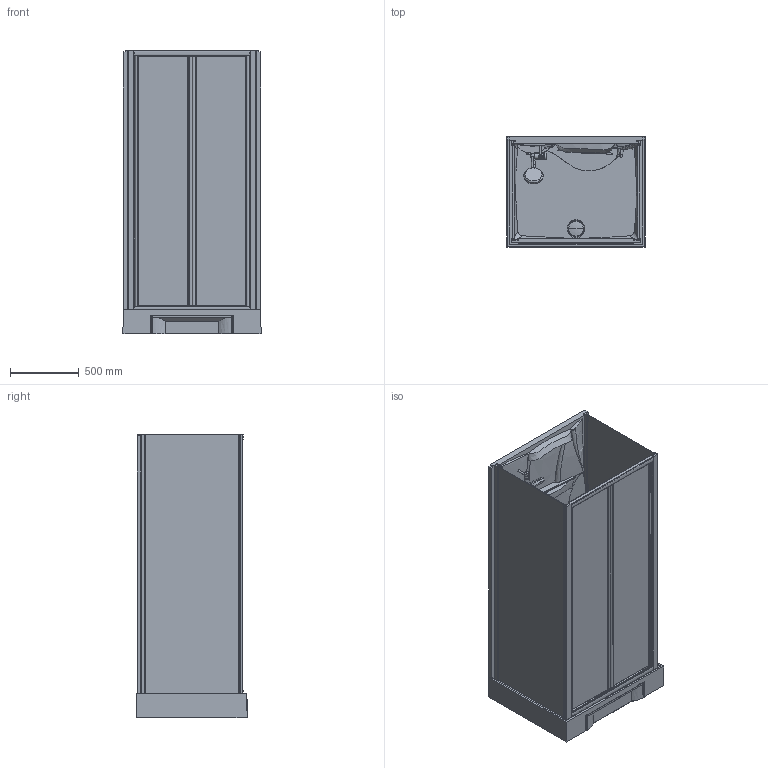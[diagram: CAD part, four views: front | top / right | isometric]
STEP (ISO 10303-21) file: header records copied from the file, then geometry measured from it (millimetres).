
FILE_DESCRIPTION(('STEP AP203'),'2;1');
FILE_NAME('NNH 2F 100 M.stp','2015-09-04T14:51:19',(''),(''),'2014.1.117','THINKDESIGN','');
FILE_SCHEMA(('CONFIG_CONTROL_DESIGN'));
Length unit declared in the file: millimetre
Products named in the file (1): top
Bounding box: 1004.04 x 807.53 x 2063.06 mm (x, y, z)
Volume: 176521013.7 mm3; surface area: 18092890.2 mm2
Topology: 25 solids, 25 shells, 556 faces, 1470 edges, 958 vertices
Faces by surface type: bspline 278, plane 241, cylinder 37
Entity records: 52921 total; most frequent: CARTESIAN_POINT 41414, ORIENTED_EDGE 2832, DIRECTION 1438, EDGE_CURVE 1416, VERTEX_POINT 921, VECTOR 678, LINE 678, EDGE_LOOP 561
